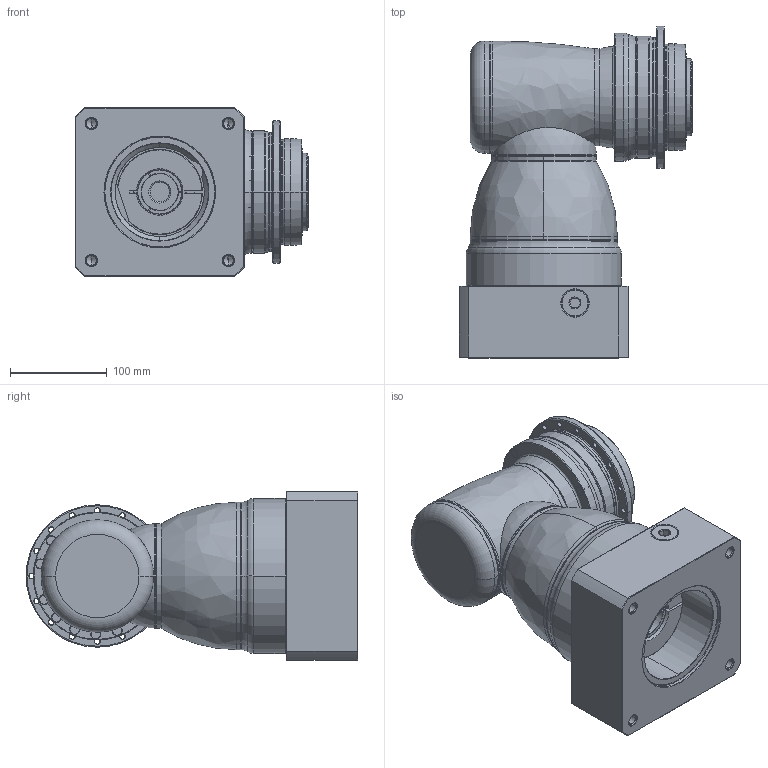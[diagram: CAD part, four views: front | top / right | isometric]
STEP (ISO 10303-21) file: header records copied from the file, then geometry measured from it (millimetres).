
FILE_DESCRIPTION((''),'2;1');
FILE_NAME('APK110_2ST_SBG_38-P0409910201_ASM','2018-10-30T',('d01226'),(''),'PRO/ENGINEER BY PARAMETRIC TECHNOLOGY CORPORATION, 2015240','PRO/ENGINEER BY PARAMETRIC TECHNOLOGY CORPORATION, 2015240','');
FILE_SCHEMA(('CONFIG_CONTROL_DESIGN'));
Length unit declared in the file: millimetre
Products named in the file (13): P0278401003; P0359401103; P1211400001; P1802410011; P1018500002; P1365500001; P1007501001; P1318501401; P0503900012; P0912554001; P0409910201; 21711422019; APK110_2ST_SBG_38-P0409910201_ASM
Assembly tree (12 placements, depth 2):
  APK110_2ST_SBG_38-P0409910201_ASM
    P0278401003
    P0359401103
    P1211400001
    P1802410011
    P1018500002
    P1365500001
    P1007501001
    P1318501401
    P0503900012
    P0912554001
    P0409910201
    21711422019
Bounding box: 240.5 x 342.5 x 174 mm (x, y, z)
Volume: 6296050 mm3; surface area: 597930.3 mm2
Topology: 13 solids, 34 shells, 790 faces, 1813 edges, 1112 vertices
Faces by surface type: cylinder 334, cone 202, plane 154, torus 79, bspline 19, sphere 2
Entity records: 27528 total; most frequent: CARTESIAN_POINT 8894, DIRECTION 4306, ORIENTED_EDGE 3468, AXIS2_PLACEMENT_3D 1852, EDGE_CURVE 1777, VERTEX_POINT 1112, CIRCLE 1046, EDGE_LOOP 937
